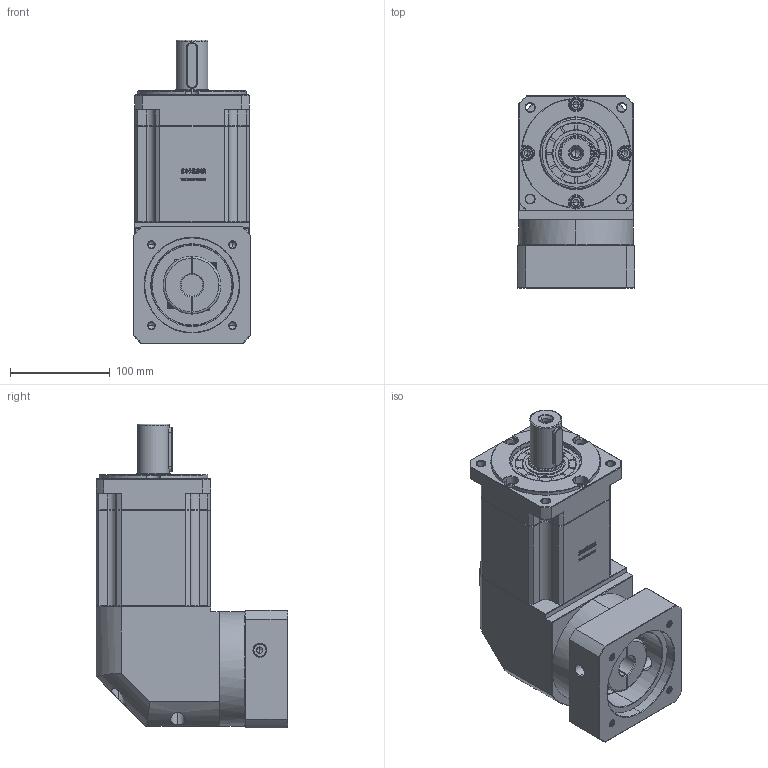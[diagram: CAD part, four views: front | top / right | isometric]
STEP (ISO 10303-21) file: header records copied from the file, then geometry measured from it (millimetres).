
FILE_DESCRIPTION (( 'STEP AP214' ), '1' );
FILE_NAME ('ZBR115A-D32-L3-22-95-115-M8.step', '2023-03-03T05:03:57', ( '' ), ( 'Microsoft' ), 'SwSTEP 2.0', 'SolidWorks 2016', '' );
FILE_SCHEMA (( 'AUTOMOTIVE_DESIGN' ));
Length unit declared in the file: millimetre
Products named in the file (1): ZBR115A-D32-L3-22-95-115-M8
Bounding box: 118 x 192.4 x 305 mm (x, y, z)
Volume: 3634187.2 mm3; surface area: 272113.9 mm2
Topology: 6 solids, 6 shells, 2983 faces, 7915 edges, 5078 vertices
Faces by surface type: plane 1559, bspline 607, cylinder 439, cone 370, torus 8
Entity records: 162115 total; most frequent: CARTESIAN_POINT 60115, ORIENTED_EDGE 15770, DIRECTION 11941, EDGE_CURVE 7885, LINE 5307, VECTOR 5307, VERTEX_POINT 5078, AXIS2_PLACEMENT_3D 3317
